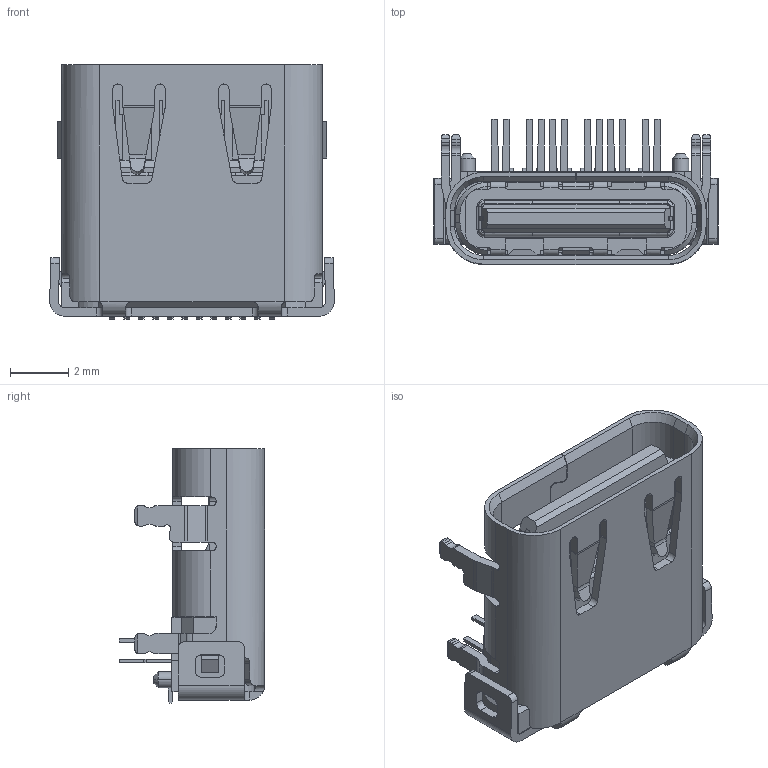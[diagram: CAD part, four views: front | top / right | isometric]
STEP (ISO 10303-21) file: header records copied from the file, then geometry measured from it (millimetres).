
FILE_DESCRIPTION((''),'2;1');
FILE_NAME('865','2022-02-16T',('Administrator'),(''),'PRO/ENGINEER BY PARAMETRIC TECHNOLOGY CORPORATION, 2010480','PRO/ENGINEER BY PARAMETRIC TECHNOLOGY CORPORATION, 2010480','');
FILE_SCHEMA(('CONFIG_CONTROL_DESIGN'));
Length unit declared in the file: millimetre
Products named in the file (1): 865
Bounding box: 9.79 x 4.99 x 8.76 mm (x, y, z)
Volume: 145.3 mm3; surface area: 641.6 mm2
Topology: 1 solids, 19 shells, 1412 faces, 4002 edges, 2638 vertices
Faces by surface type: plane 1062, cylinder 302, cone 20, torus 16, bspline 12
Entity records: 46428 total; most frequent: CARTESIAN_POINT 9493, ORIENTED_EDGE 8004, DIRECTION 7233, EDGE_CURVE 4002, VECTOR 3203, LINE 3203, VERTEX_POINT 2638, AXIS2_PLACEMENT_3D 2015
